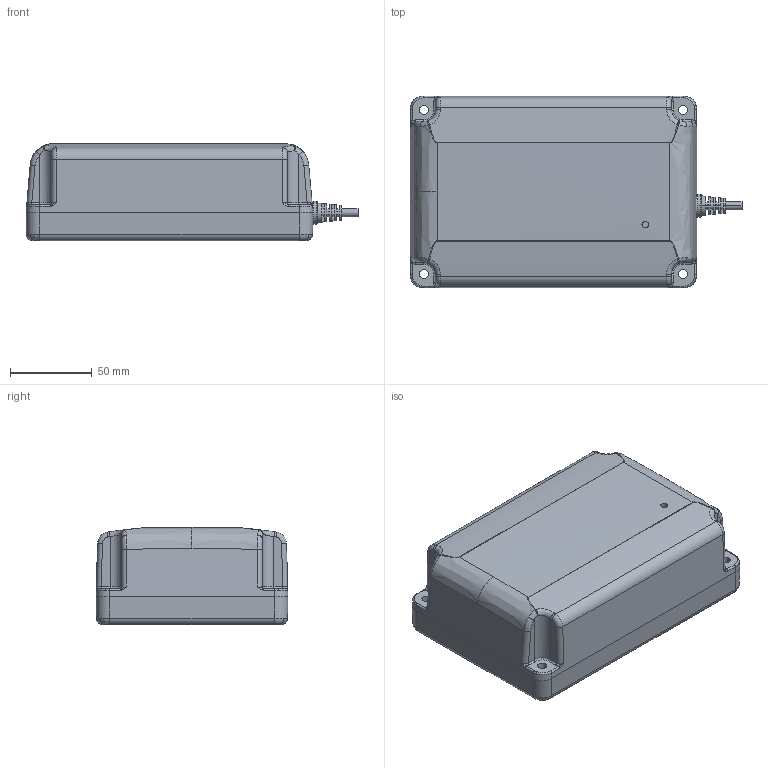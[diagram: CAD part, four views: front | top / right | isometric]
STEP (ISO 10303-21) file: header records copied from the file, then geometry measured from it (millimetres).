
FILE_DESCRIPTION (( 'STEP AP203' ), '1' );
FILE_NAME ('TBB2.STEP', '2014-01-16T02:36:58', ( 'stanley' ), ( '' ), 'SwSTEP 2.0', 'SolidWorks 2010', '' );
FILE_SCHEMA (( 'CONFIG_CONTROL_DESIGN' ));
Length unit declared in the file: millimetre
Products named in the file (1): TBB2
Bounding box: 202.5 x 117 x 59.3 mm (x, y, z)
Volume: 1129622.7 mm3; surface area: 71637.5 mm2
Topology: 1 solids, 2 shells, 221 faces, 541 edges, 320 vertices
Faces by surface type: cylinder 65, bspline 61, plane 61, cone 22, torus 12
Entity records: 14051 total; most frequent: CARTESIAN_POINT 9264, ORIENTED_EDGE 1058, DIRECTION 888, EDGE_CURVE 529, AXIS2_PLACEMENT_3D 354, VERTEX_POINT 320, EDGE_LOOP 237, ADVANCED_FACE 221
